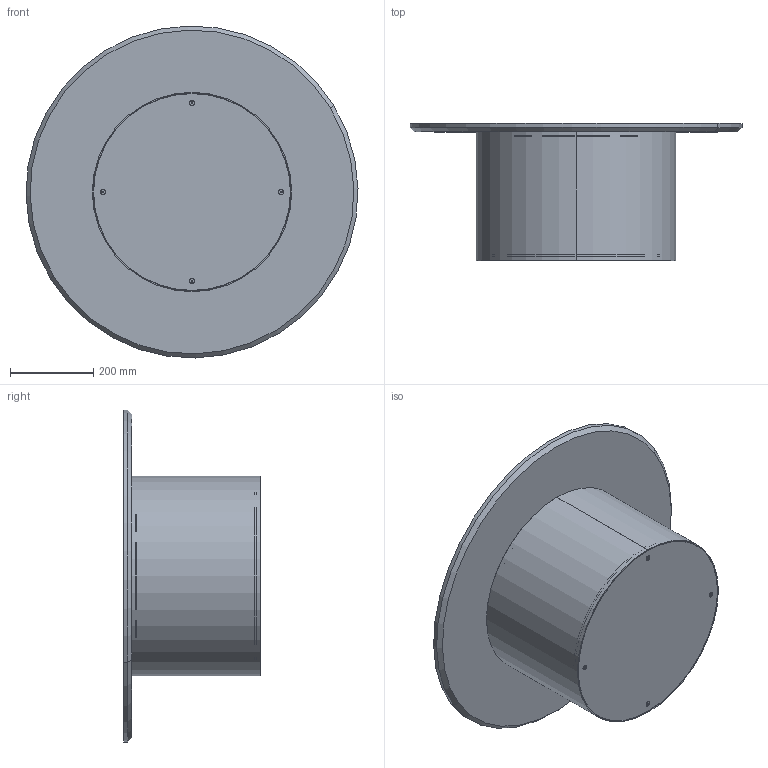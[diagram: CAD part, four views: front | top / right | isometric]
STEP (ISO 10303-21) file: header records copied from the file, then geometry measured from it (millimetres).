
FILE_DESCRIPTION (( 'STEP AP203' ), '1' );
FILE_NAME ('CL12M.STEP', '2024-08-06T10:13:07', ( '' ), ( '' ), 'SwSTEP 2.0', 'SolidWorks 2022', '' );
FILE_SCHEMA (( 'CONFIG_CONTROL_DESIGN' ));
Length unit declared in the file: millimetre
Products named in the file (12): P0000003-00-STAFFA DI FISSAGGIO DIAMETRO 250_P0000003-250mm normale; CLB1000000_01-00-Supporto piano fusto D.48cm; M0X-00- D. piani marmo_D.800; M0XMXX-00-Piani Rotondi in marmo_D.80 CON PIASTRA; CLB1000000-00-CILINDRO LOW D.48cm BASE GREZZA; M6xXXmm_HEX_M6x20mm HEX; CLB1000000_03-00-Zavorra cilindro low D.48cm; M8xXXmm_M8x24mm; M8xXXmm_M8x20mm; CLB1000000_02-00-Fusto centrale d.48cm; CL12M; CLB1000000_04-00-Supporto Zavorra fusto D.48cm
Assembly tree (16 placements, depth 3):
  CL12M
    CLB1000000-00-CILINDRO LOW D.48cm BASE GREZZA
      CLB1000000_02-00-Fusto centrale d.48cm
      CLB1000000_03-00-Zavorra cilindro low D.48cm
      CLB1000000_01-00-Supporto piano fusto D.48cm
      CLB1000000_04-00-Supporto Zavorra fusto D.48cm
      M6xXXmm_HEX_M6x20mm HEX  x4
    M0XMXX-00-Piani Rotondi in marmo_D.80 CON PIASTRA
      M0X-00- D. piani marmo_D.800
      P0000003-00-STAFFA DI FISSAGGIO DIAMETRO 250_P0000003-250mm normale
      M8xXXmm_M8x24mm
      M8xXXmm_M8x20mm  x3
Bounding box: 799.8 x 330 x 799.8 mm (x, y, z)
Volume: 13444656.8 mm3; surface area: 2735916.8 mm2
Topology: 16 solids, 16 shells, 381 faces, 831 edges, 470 vertices
Faces by surface type: plane 166, cylinder 97, cone 92, torus 24, bspline 2
Entity records: 7739 total; most frequent: CARTESIAN_POINT 1502, DIRECTION 1089, ORIENTED_EDGE 938, EDGE_CURVE 469, AXIS2_PLACEMENT_3D 450, VERTEX_POINT 285, EDGE_LOOP 254, CIRCLE 218
